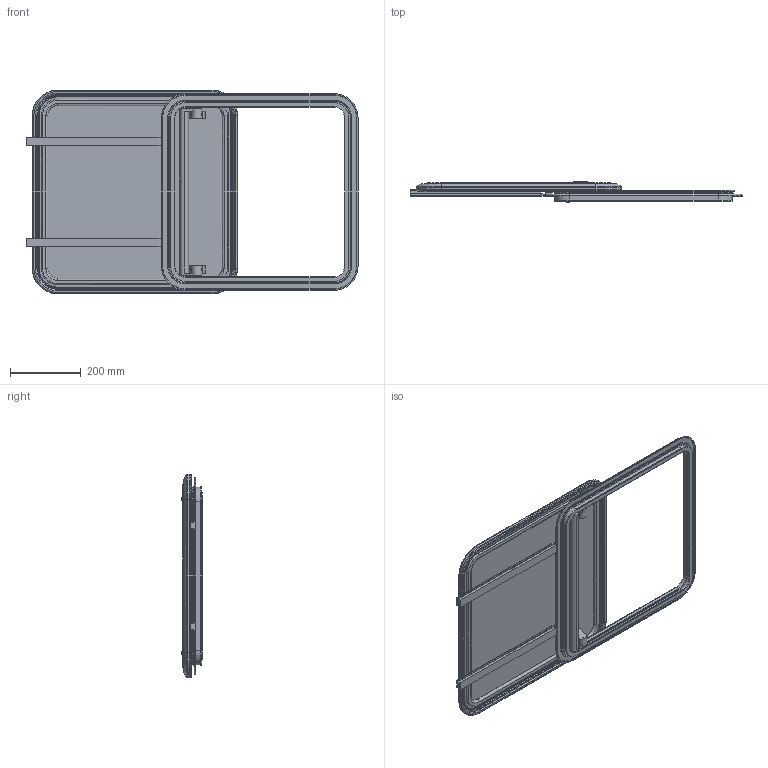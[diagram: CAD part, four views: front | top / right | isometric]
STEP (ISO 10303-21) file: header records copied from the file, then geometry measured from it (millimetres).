
FILE_DESCRIPTION((''),'2;1');
FILE_NAME('LEWMAR-HATCH-PILOT-60_ASM','2008-02-28T',('skennedy'),(''),'PRO/ENGINEER BY PARAMETRIC TECHNOLOGY CORPORATION, 2007030','PRO/ENGINEER BY PARAMETRIC TECHNOLOGY CORPORATION, 2007030','');
FILE_SCHEMA(('CONFIG_CONTROL_DESIGN'));
Length unit declared in the file: millimetre
Products named in the file (5): FRAME_60; 30071409; PILOT_HANDLE_60; PILOT_60_LOWER; LEWMAR-HATCH-PILOT-60_ASM
Assembly tree (4 placements, depth 2):
  LEWMAR-HATCH-PILOT-60_ASM
    FRAME_60
    30071409
    PILOT_HANDLE_60
    PILOT_60_LOWER
Bounding box: 939.08 x 57.8 x 577 mm (x, y, z)
Volume: 3992576.3 mm3; surface area: 1504421.4 mm2
Topology: 3 solids, 6 shells, 983 faces, 2358 edges, 1412 vertices
Faces by surface type: plane 349, cylinder 310, bspline 192, torus 84, cone 40, sphere 8
Entity records: 34227 total; most frequent: CARTESIAN_POINT 11792, ORIENTED_EDGE 4716, DIRECTION 4534, EDGE_CURVE 2358, AXIS2_PLACEMENT_3D 1620, VERTEX_POINT 1412, VECTOR 1294, LINE 1294
